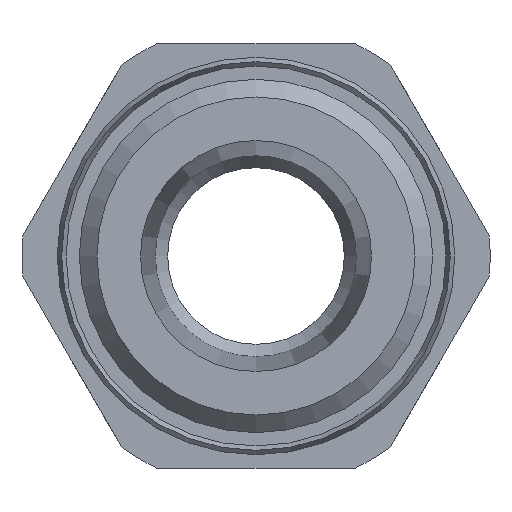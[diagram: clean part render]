
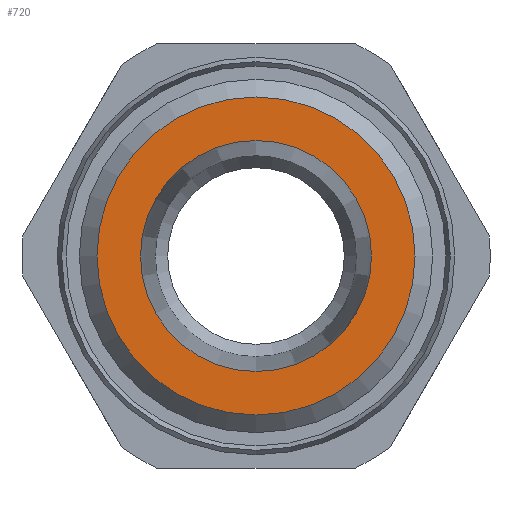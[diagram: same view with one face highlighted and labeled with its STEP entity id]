
A CAD part, front view. The second image highlights one B-rep face of the part: STEP entity #720.
In plain terms, the highlighted planar face has unit normal (0, -1, 0).
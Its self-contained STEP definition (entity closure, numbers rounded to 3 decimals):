
#22=PLANE('',#809);
#91=CIRCLE('',#808,6.538);
#92=CIRCLE('',#810,9.);
#174=ORIENTED_EDGE('',*,*,#365,.T.);
#175=ORIENTED_EDGE('',*,*,#364,.F.);
#364=EDGE_CURVE('',#454,#454,#91,.T.);
#365=EDGE_CURVE('',#455,#455,#92,.T.);
#454=VERTEX_POINT('',#1244);
#455=VERTEX_POINT('',#1247);
#579=EDGE_LOOP('',(#174));
#580=EDGE_LOOP('',(#175));
#643=FACE_BOUND('',#579,.T.);
#644=FACE_BOUND('',#580,.T.);
#720=ADVANCED_FACE('',(#643,#644),#22,.T.);
#808=AXIS2_PLACEMENT_3D('',#1243,#968,#969);
#809=AXIS2_PLACEMENT_3D('',#1245,#970,#971);
#810=AXIS2_PLACEMENT_3D('',#1246,#972,#973);
#968=DIRECTION('',(0.,-1.,0.));
#969=DIRECTION('',(0.,0.,-1.));
#970=DIRECTION('',(0.,-1.,0.));
#971=DIRECTION('',(0.,0.,-1.));
#972=DIRECTION('',(0.,-1.,0.));
#973=DIRECTION('',(0.,0.,-1.));
#1243=CARTESIAN_POINT('',(0.,0.,0.));
#1244=CARTESIAN_POINT('',(0.,0.,-6.538));
#1245=CARTESIAN_POINT('',(6.538,0.,0.));
#1246=CARTESIAN_POINT('',(0.,0.,0.));
#1247=CARTESIAN_POINT('',(0.,0.,-9.));
